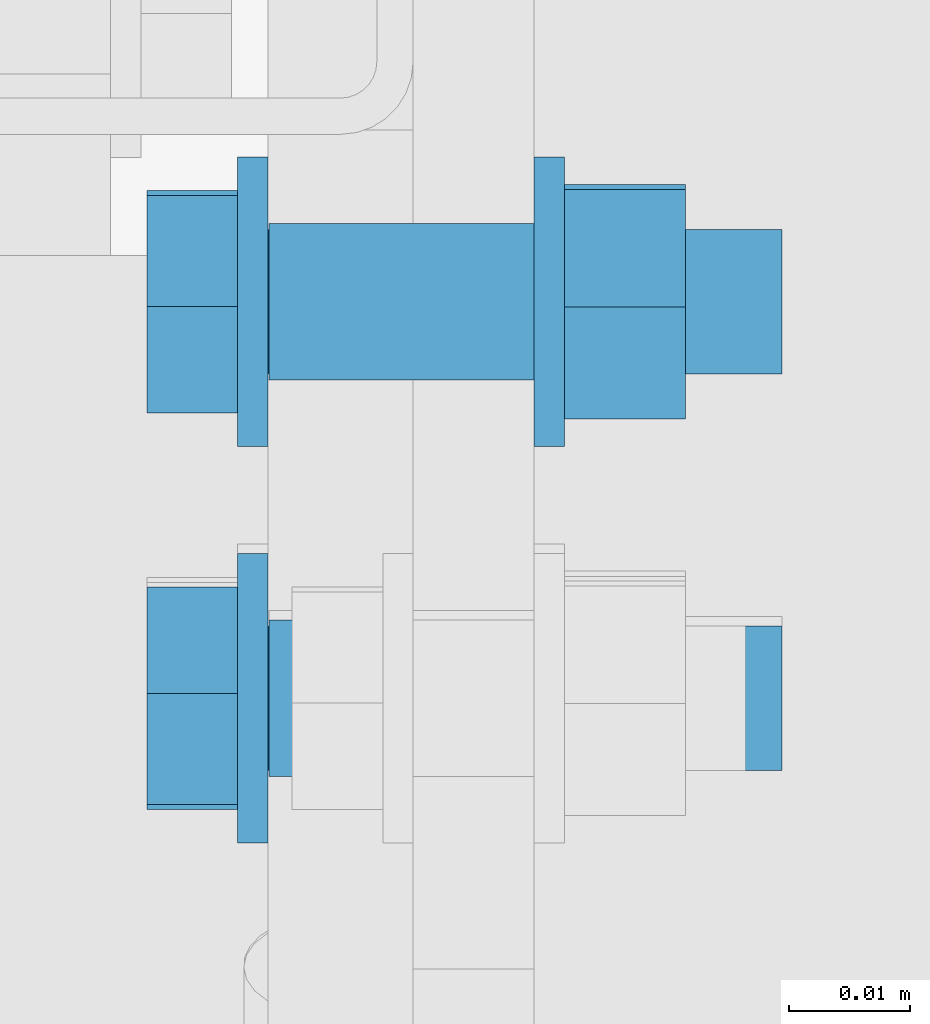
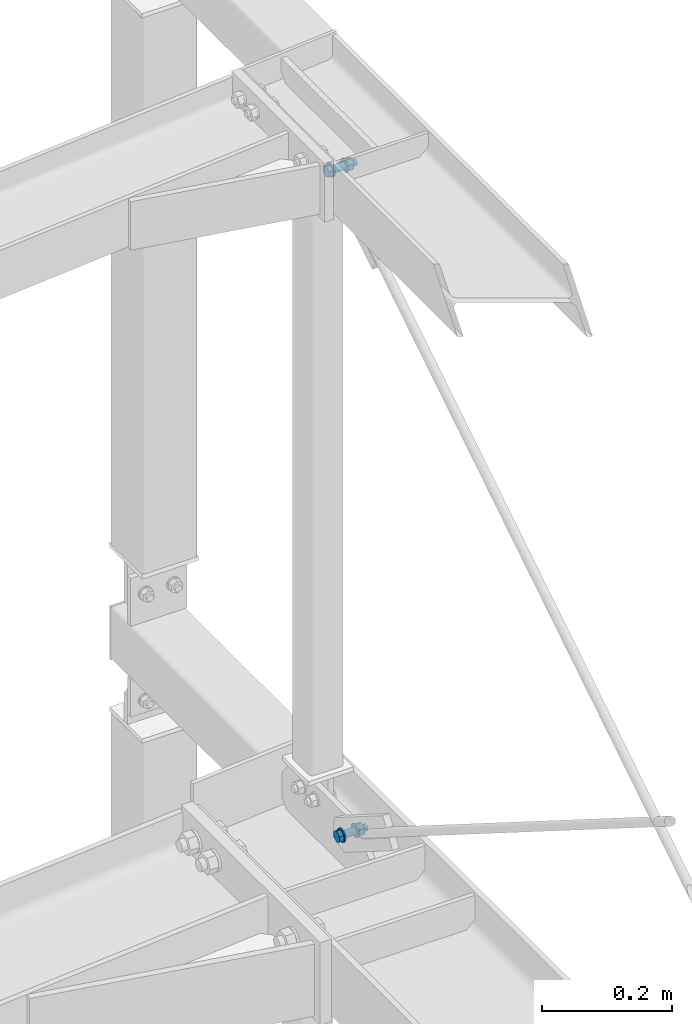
# One storey, part 266 of 271: 2 mechanical fasteners, 2 elements without a shape of their own.
"""IFC2X3 building model written with IfcOpenShell, lengths in millimetres."""

from ifc_helpers import new_model, si_unit, frame, origin_with_axes, origin_2d_with_axis, place, context, subcontext, project, spatial, polyline, circle, outline, extrude, source, transform, mapped, material, type_object, element, aggregate, save


model = new_model("IFC2X3")

# Units and contexts
model_context = context("Model", 3, precision=1e-05, world=origin_with_axes())
body_context = subcontext(model_context, "Body", "Model", "MODEL_VIEW")
ifc_project = project(units=[si_unit("LENGTHUNIT", "METRE", prefix="MILLI"), si_unit("AREAUNIT", "SQUARE_METRE"), si_unit("VOLUMEUNIT", "CUBIC_METRE"), si_unit("MASSUNIT", "GRAM", prefix="KILO"), si_unit("TIMEUNIT", "SECOND"), si_unit("PLANEANGLEUNIT", "RADIAN"), si_unit("SOLIDANGLEUNIT", "STERADIAN"), si_unit("THERMODYNAMICTEMPERATUREUNIT", "DEGREE_CELSIUS"), si_unit("LUMINOUSINTENSITYUNIT", "LUMEN")], contexts=[model_context])

# Site, building, storey
site_placement = place(None, origin_with_axes())
site = spatial("IfcSite", under=ifc_project, at=site_placement, Name="Undefined", CompositionType="ELEMENT")
building_placement = place(site_placement, origin_with_axes())
building = spatial("IfcBuilding", under=site, at=building_placement, Name="Undefined", CompositionType="ELEMENT")
storey_placement = place(building_placement, origin_with_axes())
storey = spatial("IfcBuildingStorey", under=building, at=storey_placement, Name="Undefined", CompositionType="ELEMENT", Elevation=0.0)

# Assembly, mechanical fastener
assembly_1_placement = place(storey_placement, origin_with_axes())
assembly_1 = element("IfcElementAssembly", 1, at=assembly_1_placement, inside=storey, AssemblyPlace="NOTDEFINED", PredefinedType="RIGID_FRAME")
ifc_material = material(Name="Undefined")
mechanical_fastener_type = type_object("IfcMechanicalFastenerType", Name="Bolt assembly")
shared_shape = source(origin_with_axes(), body_context, "Body", "SweptSolid", [
    extrude(circle(Radius=6.5, at=origin_2d_with_axis()), frame((0.0, -5.1, 0.0), z_axis=(0.0, 1.0, 0.0), x_axis=(1.0, 0.0, 0.0)), (0.0, 0.0, 1.0), 10.1),
    extrude(circle(Radius=6.5, at=origin_2d_with_axis()), frame((0.0, -16.9, 0.0), z_axis=(0.0, 1.0, 0.0), x_axis=(1.0, 0.0, 0.0)), (0.0, 0.0, 1.0), 12.0),
    extrude(outline(polyline([(10.39230484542, 0.0), (5.19615242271, 9.00000000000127), (-5.19615242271, 9.00000000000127), (-10.39230484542, 0.0), (-5.19615242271, -9.00000000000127), (5.19615242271, -9.00000000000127), (10.39230484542, 0.0)])), frame((0.0, -27.0, 0.0), z_axis=(0.0, 1.0, 0.0), x_axis=(1.0, 0.0, 0.0)), (0.0, 0.0, 1.0), 7.5),
    extrude(circle(Radius=6.0, at=origin_2d_with_axis()), frame((0.0, -19.5, 0.0), z_axis=(0.0, 1.0, 0.0), x_axis=(1.0, 0.0, 0.0)), (0.0, 0.0, 1.0), 45.0),
    extrude(circle(Radius=12.0, at=origin_2d_with_axis()), frame((0.0, -19.5, 0.0), z_axis=(0.0, 1.0, 0.0), x_axis=(1.0, 0.0, 0.0)), (0.0, 0.0, 1.0), 2.5),
    extrude(circle(Radius=12.0, at=origin_2d_with_axis()), frame((0.0, 5.00000000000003, 0.0), z_axis=(0.0, 1.0, 0.0), x_axis=(1.0, 0.0, 0.0)), (0.0, 0.0, 1.0), 2.5),
    extrude(outline(polyline([(10.96965511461, 0.0), (5.484827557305, 9.50000000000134), (-5.484827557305, 9.50000000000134), (-10.96965511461, 0.0), (-5.484827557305, -9.50000000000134), (5.484827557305, -9.50000000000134), (10.96965511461, 0.0)])), frame((0.0, 7.50000000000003, 0.0), z_axis=(0.0, 1.0, 0.0), x_axis=(1.0, 0.0, 0.0)), (0.0, 0.0, 1.0), 10.0),
])
mechanical_fastener_1_placement = place(assembly_1_placement, frame((12608.7513741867, 4248.3479574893, 19948.358337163), z_axis=(0.0, -0.533166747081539, 0.846010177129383), x_axis=(0.0, -0.846010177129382, -0.533166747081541)))
mechanical_fastener_1 = element("IfcMechanicalFastener", 2, at=mechanical_fastener_1_placement, type_object=mechanical_fastener_type, material=ifc_material, Name="Bolt assembly", NominalDiameter=12.0, NominalLength=45.0, context=body_context, shape_type="MappedRepresentation", body=[
    mapped(shared_shape, transform((0.0, 0.0, 0.0))),
])
aggregate(assembly_1, [mechanical_fastener_1])

assembly_2_placement = place(storey_placement, origin_with_axes())
assembly_2 = element("IfcElementAssembly", 3, at=assembly_2_placement, inside=storey, AssemblyPlace="NOTDEFINED", PredefinedType="RIGID_FRAME")
mechanical_fastener_2_placement = place(assembly_2_placement, frame((12608.7513741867, 4215.58126521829, 18720.991662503), z_axis=(0.0, 0.533166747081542, 0.846010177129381), x_axis=(0.0, -0.846010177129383, 0.533166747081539)))
mechanical_fastener_2 = element("IfcMechanicalFastener", 4, at=mechanical_fastener_2_placement, type_object=mechanical_fastener_type, material=ifc_material, Name="Bolt assembly", NominalDiameter=12.0, NominalLength=45.0, context=body_context, shape_type="MappedRepresentation", body=[
    mapped(shared_shape, transform((0.0, 0.0, 0.0))),
])
aggregate(assembly_2, [mechanical_fastener_2])

save(model, "model.ifc")
